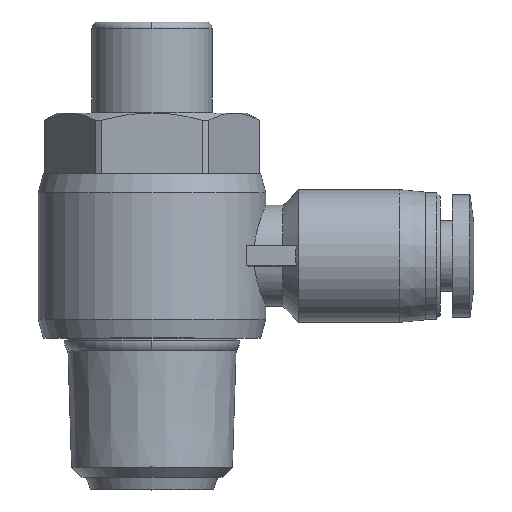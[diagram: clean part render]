
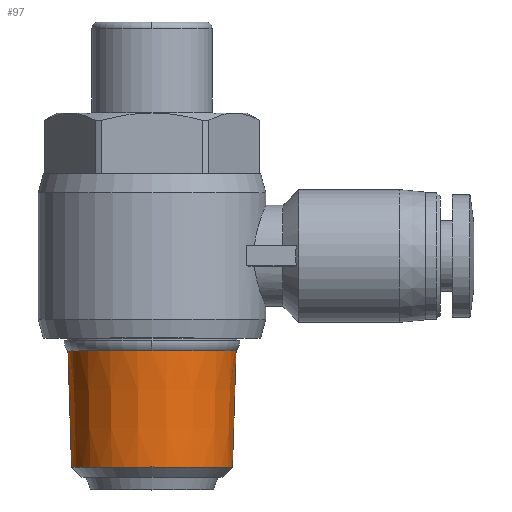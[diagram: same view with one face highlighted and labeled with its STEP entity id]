
A CAD part, top view. The second image highlights one B-rep face of the part: STEP entity #97.
In plain terms, the highlighted conical face has half-angle 1.79 degrees and reference radius 6.506 mm.
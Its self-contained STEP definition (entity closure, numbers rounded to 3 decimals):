
#17 = AXIS2_PLACEMENT_3D ( 'NONE', #1966, #1745, #268 ) ;
#97 = ADVANCED_FACE ( 'NONE', ( #2895 ), #819, .T. ) ;
#111 = ORIENTED_EDGE ( 'NONE', *, *, #2792, .T. ) ;
#133 = DIRECTION ( 'NONE',  ( 0., 1., 0. ) ) ;
#156 = CARTESIAN_POINT ( 'NONE',  ( 0., 11., 6.65 ) ) ;
#268 = DIRECTION ( 'NONE',  ( -1., 0., 0. ) ) ;
#391 = AXIS2_PLACEMENT_3D ( 'NONE', #1021, #1291, #766 ) ;
#427 = CARTESIAN_POINT ( 'NONE',  ( -6.506, 6.4, 0. ) ) ;
#482 = VERTEX_POINT ( 'NONE', #1386 ) ;
#502 = EDGE_CURVE ( 'NONE', #3534, #1267, #1141, .T. ) ;
#518 = CARTESIAN_POINT ( 'NONE',  ( 6.362, 1.8, 0. ) ) ;
#569 = CARTESIAN_POINT ( 'NONE',  ( 6.65, 11., 0. ) ) ;
#752 = CARTESIAN_POINT ( 'NONE',  ( 0., 11., 0. ) ) ;
#766 = DIRECTION ( 'NONE',  ( -1., 0., 0. ) ) ;
#819 = CONICAL_SURFACE ( 'NONE', #17, 6.506, 0.031 ) ;
#901 = EDGE_LOOP ( 'NONE', ( #111, #1867, #3106, #1716, #3669 ) ) ;
#1021 = CARTESIAN_POINT ( 'NONE',  ( 0., 11., 0. ) ) ;
#1089 = DIRECTION ( 'NONE',  ( 0., 1., 0. ) ) ;
#1141 = LINE ( 'NONE', #3714, #1260 ) ;
#1260 = VECTOR ( 'NONE', #3771, 1000. ) ;
#1267 = VERTEX_POINT ( 'NONE', #569 ) ;
#1291 = DIRECTION ( 'NONE',  ( 0., 1., 0. ) ) ;
#1386 = CARTESIAN_POINT ( 'NONE',  ( -6.362, 1.8, 0. ) ) ;
#1555 = AXIS2_PLACEMENT_3D ( 'NONE', #752, #133, #2122 ) ;
#1590 = EDGE_CURVE ( 'NONE', #482, #3274, #1879, .T. ) ;
#1611 = CIRCLE ( 'NONE', #3760, 6.362 ) ;
#1615 = DIRECTION ( 'NONE',  ( -0.031, 1., 0. ) ) ;
#1716 = ORIENTED_EDGE ( 'NONE', *, *, #2380, .F. ) ;
#1745 = DIRECTION ( 'NONE',  ( 0., 1., 0. ) ) ;
#1867 = ORIENTED_EDGE ( 'NONE', *, *, #502, .T. ) ;
#1879 = LINE ( 'NONE', #427, #2803 ) ;
#1932 = CARTESIAN_POINT ( 'NONE',  ( 0., 1.8, 0. ) ) ;
#1966 = CARTESIAN_POINT ( 'NONE',  ( 0., 6.4, 0. ) ) ;
#2014 = VERTEX_POINT ( 'NONE', #156 ) ;
#2122 = DIRECTION ( 'NONE',  ( -1., 0., 0. ) ) ;
#2380 = EDGE_CURVE ( 'NONE', #3274, #2014, #3516, .T. ) ;
#2792 = EDGE_CURVE ( 'NONE', #482, #3534, #1611, .T. ) ;
#2798 = DIRECTION ( 'NONE',  ( -1., 0., 0. ) ) ;
#2803 = VECTOR ( 'NONE', #1615, 1000. ) ;
#2895 = FACE_OUTER_BOUND ( 'NONE', #901, .T. ) ;
#2900 = CIRCLE ( 'NONE', #391, 6.65 ) ;
#3106 = ORIENTED_EDGE ( 'NONE', *, *, #3785, .F. ) ;
#3261 = CARTESIAN_POINT ( 'NONE',  ( -6.65, 11., 0. ) ) ;
#3274 = VERTEX_POINT ( 'NONE', #3261 ) ;
#3516 = CIRCLE ( 'NONE', #1555, 6.65 ) ;
#3534 = VERTEX_POINT ( 'NONE', #518 ) ;
#3669 = ORIENTED_EDGE ( 'NONE', *, *, #1590, .F. ) ;
#3714 = CARTESIAN_POINT ( 'NONE',  ( 6.506, 6.4, 0. ) ) ;
#3760 = AXIS2_PLACEMENT_3D ( 'NONE', #1932, #1089, #2798 ) ;
#3771 = DIRECTION ( 'NONE',  ( 0.031, 1., 0. ) ) ;
#3785 = EDGE_CURVE ( 'NONE', #2014, #1267, #2900, .T. ) ;
